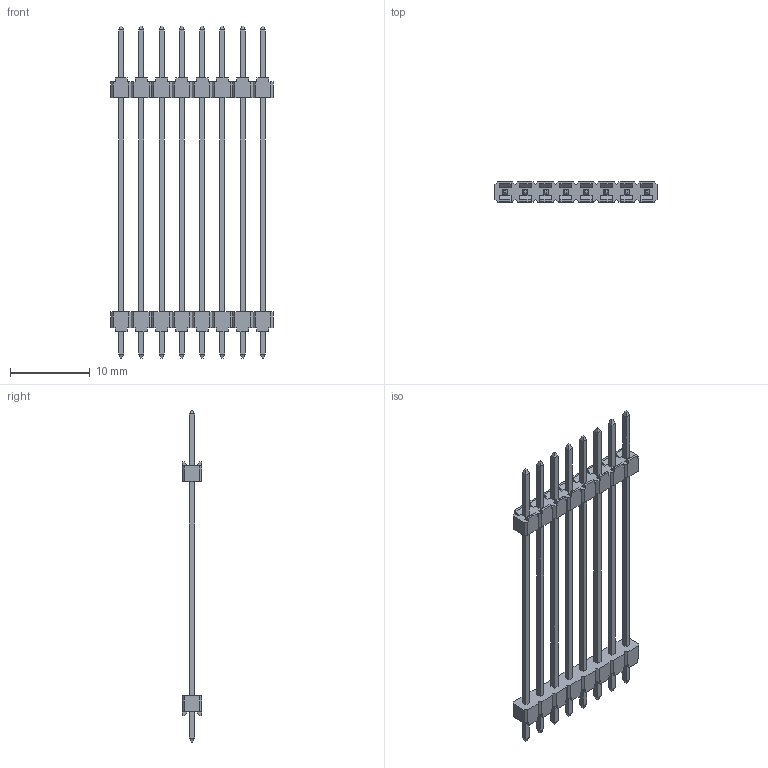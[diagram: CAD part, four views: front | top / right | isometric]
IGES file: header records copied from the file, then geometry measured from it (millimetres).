
Global section: file name: N:\GOLF_VI_2_54mm_UGII\9614XX-X04XX04-XX (TS-2185)\961408-9041604-XX.igs; native system: NX V3.0; preprocessor: UGS NX IGES V4.0; date: 20070618.103405; units: millimetre
Bounding box: 20.32 x 2.5 x 41.6 mm (x, y, z)
Surface area: 1187.3 mm2 (no closed solid volume)
Topology: 0 solids, 0 shells, 444 faces, 2417 edges, 2417 vertices
Faces by surface type: bspline 444
